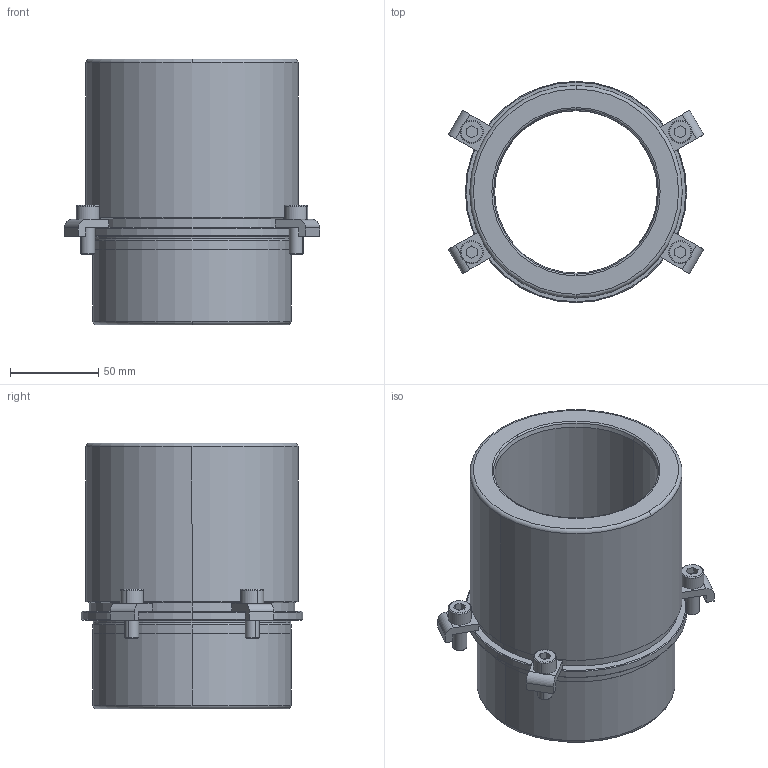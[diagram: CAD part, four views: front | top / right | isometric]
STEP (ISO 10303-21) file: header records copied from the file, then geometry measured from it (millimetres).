
FILE_DESCRIPTION((''),'2;1');
FILE_NAME('B40_080_100.stp','2009-01-05T16:44:41',(''),(''),'Mechanical Desktop 2009','Mechanical Desktop 2009',', , ');
FILE_SCHEMA(('CONFIG_CONTROL_DESIGN'));
Length unit declared in the file: millimetre
Products named in the file (2): Product; blmdl1
Assembly tree (1 placements, depth 2):
  Product
    blmdl1
Bounding box: 144.26 x 125 x 150 mm (x, y, z)
Volume: 639502.9 mm3; surface area: 118905.4 mm2
Topology: 9 solids, 9 shells, 173 faces, 422 edges, 278 vertices
Faces by surface type: plane 77, cylinder 46, cone 22, torus 16, bspline 12
Entity records: 5759 total; most frequent: CARTESIAN_POINT 1403, DIRECTION 958, ORIENTED_EDGE 844, EDGE_CURVE 422, AXIS2_PLACEMENT_3D 373, VERTEX_POINT 278, VECTOR 212, LINE 212
